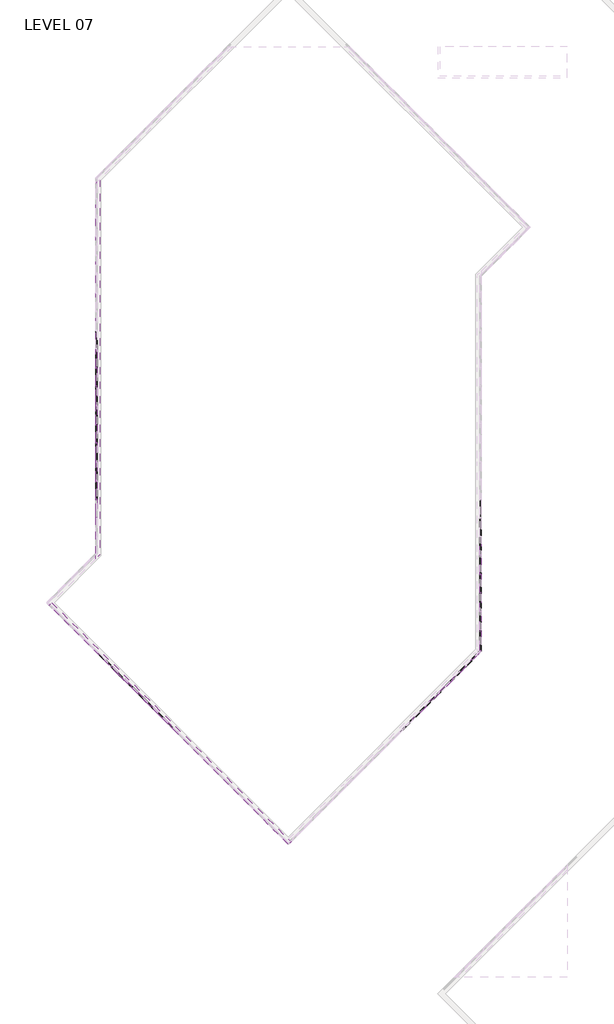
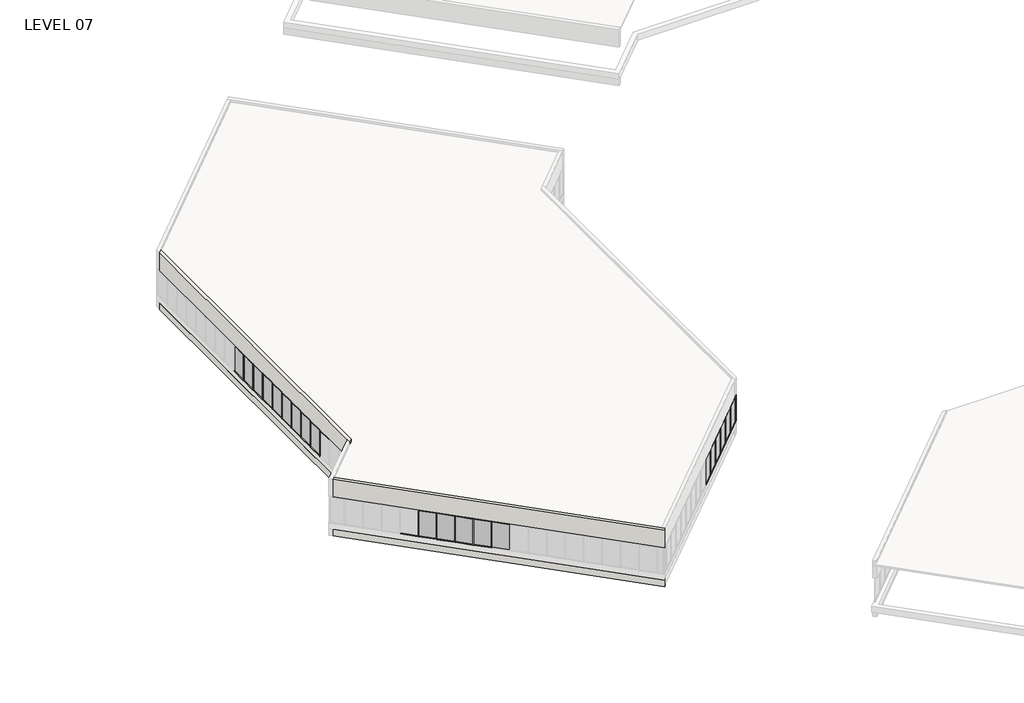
# One storey, part 4 of 18: 79 members, 28 plates, 4 walls.
"""IFC4 building model written with IfcOpenShell, lengths in millimetres."""

from ifc_helpers import new_model, si_unit, origin, place, context, project, spatial, faceted_brep, transform, mapped, element, save
from components import member_5247f267, member_e44af9ab, member_800970d4, member_c23f844a, member_1bd862b2, member_c975838b, member_ed9c17d6, plate_67294edd, plate_50b9cd61, plate_bbcbcabf, plate_db5d6751, plate_e0fd5134, plate_dca6a18a

model = new_model("IFC4")

# Units and contexts
model_context = context("Model", 3, world=origin())
ifc_project = project(units=[si_unit("LENGTHUNIT", "METRE", prefix="MILLI")], contexts=[model_context])

# Site, building, storey
site = spatial("IfcSite", under=ifc_project)
building = spatial("IfcBuilding", under=site)
storey = spatial("IfcBuildingStorey", under=building, Name="LEVEL 07", Elevation=23368.0)

# Members
placement = place(None, origin())
member_shape = member_5247f267(model_context)
element("IfcMember", 1, ObjectType="Rectangular Mullion : 2\" x 4.5\" rectangular", at=placement, inside=storey, context=model_context, shape_type="MappedRepresentation", body=[
    mapped(member_shape, transform((-32784.0347164, 50634.5675885, 25958.8), x_axis=(0.0, 0.0, 1.0), y_axis=(1.0, 0.0, 0.0), z_axis=(0.0, 1.0, 0.0))),
])
element("IfcMember", 2, ObjectType="Rectangular Mullion : 2\" x 4.5\" rectangular", at=placement, inside=storey, context=model_context, shape_type="MappedRepresentation", body=[
    mapped(member_shape, transform((-32784.0347164, 56730.5675885, 25958.8), x_axis=(0.0, 0.0, 1.0), y_axis=(1.0, 0.0, 0.0), z_axis=(0.0, 1.0, 0.0))),
])
element("IfcMember", 3, ObjectType="Rectangular Mullion : 2\" x 4.5\" rectangular", at=placement, inside=storey, context=model_context, shape_type="MappedRepresentation", body=[
    mapped(member_shape, transform((-32784.0347164, 58254.5675885, 25958.8), x_axis=(0.0, 0.0, 1.0), y_axis=(1.0, 0.0, 0.0), z_axis=(0.0, 1.0, 0.0))),
])
element("IfcMember", 4, ObjectType="Rectangular Mullion : 2\" x 4.5\" rectangular", at=placement, inside=storey, context=model_context, shape_type="MappedRepresentation", body=[
    mapped(member_shape, transform((-32784.0347164, 59778.5675885, 25958.8), x_axis=(0.0, 0.0, 1.0), y_axis=(1.0, 0.0, 0.0), z_axis=(0.0, 1.0, 0.0))),
])
element("IfcMember", 5, ObjectType="Rectangular Mullion : 2\" x 4.5\" rectangular", at=placement, inside=storey, context=model_context, shape_type="MappedRepresentation", body=[
    mapped(member_shape, transform((-32784.0347164, 62826.5675885, 25958.8), x_axis=(0.0, 0.0, 1.0), y_axis=(1.0, 0.0, 0.0), z_axis=(0.0, 1.0, 0.0))),
])
element("IfcMember", 6, ObjectType="Rectangular Mullion : 2\" x 4.5\" rectangular", at=placement, inside=storey, context=model_context, shape_type="MappedRepresentation", body=[
    mapped(member_shape, transform((-32784.0347164, 52158.5675885, 25958.8), x_axis=(0.0, 0.0, 1.0), y_axis=(1.0, 0.0, 0.0), z_axis=(0.0, 1.0, 0.0))),
])
element("IfcMember", 7, ObjectType="Rectangular Mullion : 2\" x 4.5\" rectangular", at=placement, inside=storey, context=model_context, shape_type="MappedRepresentation", body=[
    mapped(member_shape, transform((-32784.0347164, 55206.5675885, 25958.8), x_axis=(0.0, 0.0, 1.0), y_axis=(1.0, 0.0, 0.0), z_axis=(0.0, 1.0, 0.0))),
])
element("IfcMember", 8, ObjectType="Rectangular Mullion : 2\" x 4.5\" rectangular", at=placement, inside=storey, context=model_context, shape_type="MappedRepresentation", body=[
    mapped(member_shape, transform((-32784.0347164, 53682.5675885, 25958.8), x_axis=(0.0, 0.0, 1.0), y_axis=(1.0, 0.0, 0.0), z_axis=(0.0, 1.0, 0.0))),
])
element("IfcMember", 9, ObjectType="Rectangular Mullion : 2\" x 4.5\" rectangular", at=placement, inside=storey, context=model_context, shape_type="MappedRepresentation", body=[
    mapped(member_shape, transform((-32784.0347164, 61302.5675885, 25958.8), x_axis=(0.0, 0.0, 1.0), y_axis=(1.0, 0.0, 0.0), z_axis=(0.0, 1.0, 0.0))),
])
element("IfcMember", 10, ObjectType="Rectangular Mullion : 2\" x 4.5\" rectangular", at=placement, inside=storey, context=model_context, shape_type="MappedRepresentation", body=[
    mapped(member_shape, transform((-1611.8847164, 47586.5675885, 25958.8), x_axis=(0.0, 0.0, 1.0), y_axis=(1.0, 0.0, 0.0), z_axis=(0.0, 1.0, 0.0))),
])
element("IfcMember", 11, ObjectType="Rectangular Mullion : 2\" x 4.5\" rectangular", at=placement, inside=storey, context=model_context, shape_type="MappedRepresentation", body=[
    mapped(member_shape, transform((-1611.8847164, 46062.5675885, 25958.8), x_axis=(0.0, 0.0, 1.0), y_axis=(1.0, 0.0, 0.0), z_axis=(0.0, 1.0, 0.0))),
])
element("IfcMember", 12, ObjectType="Rectangular Mullion : 2\" x 4.5\" rectangular", at=placement, inside=storey, context=model_context, shape_type="MappedRepresentation", body=[
    mapped(member_shape, transform((-1611.8847164, 44538.5675885, 25958.8), x_axis=(0.0, 0.0, 1.0), y_axis=(1.0, 0.0, 0.0), z_axis=(0.0, 1.0, 0.0))),
])
element("IfcMember", 13, ObjectType="Rectangular Mullion : 2\" x 4.5\" rectangular", at=placement, inside=storey, context=model_context, shape_type="MappedRepresentation", body=[
    mapped(member_shape, transform((-1611.8847164, 43014.5675885, 25958.8), x_axis=(0.0, 0.0, 1.0), y_axis=(1.0, 0.0, 0.0), z_axis=(0.0, 1.0, 0.0))),
])
element("IfcMember", 14, ObjectType="Rectangular Mullion : 2\" x 4.5\" rectangular", at=placement, inside=storey, context=model_context, shape_type="MappedRepresentation", body=[
    mapped(member_shape, transform((-1611.8847164, 41490.5675885, 25958.8), x_axis=(0.0, 0.0, 1.0), y_axis=(1.0, 0.0, 0.0), z_axis=(0.0, 1.0, 0.0))),
])
element("IfcMember", 15, ObjectType="Rectangular Mullion : 2\" x 4.5\" rectangular", at=placement, inside=storey, context=model_context, shape_type="MappedRepresentation", body=[
    mapped(member_shape, transform((-3866.0742688, 36048.0719005, 25958.8), x_axis=(0.0, 0.0, 1.0), y_axis=(-0.7071067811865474, 0.7071067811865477, 0.0), z_axis=(-0.7071067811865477, -0.7071067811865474, 0.0))),
])
element("IfcMember", 16, ObjectType="Rectangular Mullion : 2\" x 4.5\" rectangular", at=placement, inside=storey, context=model_context, shape_type="MappedRepresentation", body=[
    mapped(member_shape, transform((-4943.7050033, 34970.441166, 25958.8), x_axis=(0.0, 0.0, 1.0), y_axis=(-0.707106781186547, 0.707106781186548, 0.0), z_axis=(-0.707106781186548, -0.707106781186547, 0.0))),
])
element("IfcMember", 17, ObjectType="Rectangular Mullion : 2\" x 4.5\" rectangular", at=placement, inside=storey, context=model_context, shape_type="MappedRepresentation", body=[
    mapped(member_shape, transform((-6021.3357378, 33892.8104315, 25958.8), x_axis=(0.0, 0.0, 1.0), y_axis=(-0.7071067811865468, 0.7071067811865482, 0.0), z_axis=(-0.7071067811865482, -0.7071067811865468, 0.0))),
])
element("IfcMember", 18, ObjectType="Rectangular Mullion : 2\" x 4.5\" rectangular", at=placement, inside=storey, context=model_context, shape_type="MappedRepresentation", body=[
    mapped(member_shape, transform((-7098.9590715, 32815.1870978, 25958.8), x_axis=(0.0, 0.0, 1.0), y_axis=(-0.7071067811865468, 0.7071067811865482, 0.0), z_axis=(-0.7071067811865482, -0.7071067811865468, 0.0))),
])
element("IfcMember", 19, ObjectType="Rectangular Mullion : 2\" x 4.5\" rectangular", at=placement, inside=storey, context=model_context, shape_type="MappedRepresentation", body=[
    mapped(member_shape, transform((-32784.0347164, 50685.3675885, 23368.0), x_axis=(0.0, 0.0, -1.0), y_axis=(1.0, 0.0, 0.0), z_axis=(0.0, -1.0, 0.0))),
])
element("IfcMember", 20, ObjectType="Rectangular Mullion : 2\" x 4.5\" rectangular", at=placement, inside=storey, context=model_context, shape_type="MappedRepresentation", body=[
    mapped(member_shape, transform((-32784.0347164, 56781.3675885, 23368.0), x_axis=(0.0, 0.0, -1.0), y_axis=(1.0, 0.0, 0.0), z_axis=(0.0, -1.0, 0.0))),
])
element("IfcMember", 21, ObjectType="Rectangular Mullion : 2\" x 4.5\" rectangular", at=placement, inside=storey, context=model_context, shape_type="MappedRepresentation", body=[
    mapped(member_shape, transform((-32784.0347164, 58305.3675885, 23368.0), x_axis=(0.0, 0.0, -1.0), y_axis=(1.0, 0.0, 0.0), z_axis=(0.0, -1.0, 0.0))),
])
element("IfcMember", 22, ObjectType="Rectangular Mullion : 2\" x 4.5\" rectangular", at=placement, inside=storey, context=model_context, shape_type="MappedRepresentation", body=[
    mapped(member_shape, transform((-32784.0347164, 59829.3675885, 23368.0), x_axis=(0.0, 0.0, -1.0), y_axis=(1.0, 0.0, 0.0), z_axis=(0.0, -1.0, 0.0))),
])
element("IfcMember", 23, ObjectType="Rectangular Mullion : 2\" x 4.5\" rectangular", at=placement, inside=storey, context=model_context, shape_type="MappedRepresentation", body=[
    mapped(member_shape, transform((-32784.0347164, 62877.3675885, 23368.0), x_axis=(0.0, 0.0, -1.0), y_axis=(1.0, 0.0, 0.0), z_axis=(0.0, -1.0, 0.0))),
])
element("IfcMember", 24, ObjectType="Rectangular Mullion : 2\" x 4.5\" rectangular", at=placement, inside=storey, context=model_context, shape_type="MappedRepresentation", body=[
    mapped(member_shape, transform((-32784.0347164, 52209.3675885, 23368.0), x_axis=(0.0, 0.0, -1.0), y_axis=(1.0, 0.0, 0.0), z_axis=(0.0, -1.0, 0.0))),
])
element("IfcMember", 25, ObjectType="Rectangular Mullion : 2\" x 4.5\" rectangular", at=placement, inside=storey, context=model_context, shape_type="MappedRepresentation", body=[
    mapped(member_shape, transform((-32784.0347164, 55257.3675885, 23368.0), x_axis=(0.0, 0.0, -1.0), y_axis=(1.0, 0.0, 0.0), z_axis=(0.0, -1.0, 0.0))),
])
element("IfcMember", 26, ObjectType="Rectangular Mullion : 2\" x 4.5\" rectangular", at=placement, inside=storey, context=model_context, shape_type="MappedRepresentation", body=[
    mapped(member_shape, transform((-32784.0347164, 53733.3675885, 23368.0), x_axis=(0.0, 0.0, -1.0), y_axis=(1.0, 0.0, 0.0), z_axis=(0.0, -1.0, 0.0))),
])
element("IfcMember", 27, ObjectType="Rectangular Mullion : 2\" x 4.5\" rectangular", at=placement, inside=storey, context=model_context, shape_type="MappedRepresentation", body=[
    mapped(member_shape, transform((-32784.0347164, 61353.3675885, 23368.0), x_axis=(0.0, 0.0, -1.0), y_axis=(1.0, 0.0, 0.0), z_axis=(0.0, -1.0, 0.0))),
])
element("IfcMember", 28, ObjectType="Rectangular Mullion : 2\" x 4.5\" rectangular", at=placement, inside=storey, context=model_context, shape_type="MappedRepresentation", body=[
    mapped(member_shape, transform((-1611.8847164, 47637.3675885, 23368.0), x_axis=(0.0, 0.0, -1.0), y_axis=(1.0, 0.0, 0.0), z_axis=(0.0, -1.0, 0.0))),
])
element("IfcMember", 29, ObjectType="Rectangular Mullion : 2\" x 4.5\" rectangular", at=placement, inside=storey, context=model_context, shape_type="MappedRepresentation", body=[
    mapped(member_shape, transform((-1611.8847164, 46113.3675885, 23368.0), x_axis=(0.0, 0.0, -1.0), y_axis=(1.0, 0.0, 0.0), z_axis=(0.0, -1.0, 0.0))),
])
element("IfcMember", 30, ObjectType="Rectangular Mullion : 2\" x 4.5\" rectangular", at=placement, inside=storey, context=model_context, shape_type="MappedRepresentation", body=[
    mapped(member_shape, transform((-1611.8847164, 44589.3675885, 23368.0), x_axis=(0.0, 0.0, -1.0), y_axis=(1.0, 0.0, 0.0), z_axis=(0.0, -1.0, 0.0))),
])
element("IfcMember", 31, ObjectType="Rectangular Mullion : 2\" x 4.5\" rectangular", at=placement, inside=storey, context=model_context, shape_type="MappedRepresentation", body=[
    mapped(member_shape, transform((-1611.8847164, 43065.3675885, 23368.0), x_axis=(0.0, 0.0, -1.0), y_axis=(1.0, 0.0, 0.0), z_axis=(0.0, -1.0, 0.0))),
])
element("IfcMember", 32, ObjectType="Rectangular Mullion : 2\" x 4.5\" rectangular", at=placement, inside=storey, context=model_context, shape_type="MappedRepresentation", body=[
    mapped(member_shape, transform((-1611.8847164, 41541.3675885, 23368.0), x_axis=(0.0, 0.0, -1.0), y_axis=(1.0, 0.0, 0.0), z_axis=(0.0, -1.0, 0.0))),
])
element("IfcMember", 33, ObjectType="Rectangular Mullion : 2\" x 4.5\" rectangular", at=placement, inside=storey, context=model_context, shape_type="MappedRepresentation", body=[
    mapped(member_shape, transform((-1611.8847164, 40017.3675885, 23368.0), x_axis=(0.0, 0.0, -1.0), y_axis=(1.0, 0.0, 0.0), z_axis=(0.0, -1.0, 0.0))),
])
element("IfcMember", 34, ObjectType="Rectangular Mullion : 2\" x 4.5\" rectangular", at=placement, inside=storey, context=model_context, shape_type="MappedRepresentation", body=[
    mapped(member_shape, transform((-3901.9952932, 36012.1508761, 23368.0), x_axis=(0.0, 0.0, -1.0), y_axis=(-0.7071067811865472, 0.7071067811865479, 0.0), z_axis=(0.7071067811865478, 0.7071067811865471, 0.0))),
])
element("IfcMember", 35, ObjectType="Rectangular Mullion : 2\" x 4.5\" rectangular", at=placement, inside=storey, context=model_context, shape_type="MappedRepresentation", body=[
    mapped(member_shape, transform((-4979.6260278, 34934.5201415, 23368.0), x_axis=(0.0, 0.0, -1.0), y_axis=(-0.7071067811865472, 0.7071067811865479, 0.0), z_axis=(0.7071067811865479, 0.7071067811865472, 0.0))),
])
element("IfcMember", 36, ObjectType="Rectangular Mullion : 2\" x 4.5\" rectangular", at=placement, inside=storey, context=model_context, shape_type="MappedRepresentation", body=[
    mapped(member_shape, transform((-6057.2567623, 33856.889407, 23368.0), x_axis=(0.0, 0.0, -1.0), y_axis=(-0.7071067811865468, 0.7071067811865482, 0.0), z_axis=(0.7071067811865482, 0.7071067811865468, 0.0))),
])
element("IfcMember", 37, ObjectType="Rectangular Mullion : 2\" x 4.5\" rectangular", at=placement, inside=storey, context=model_context, shape_type="MappedRepresentation", body=[
    mapped(member_shape, transform((-2824.3645587, 37089.7816106, 23368.0), x_axis=(0.0, 0.0, -1.0), y_axis=(-0.707106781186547, 0.7071067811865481, 0.0), z_axis=(0.707106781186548, 0.7071067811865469, 0.0))),
])
element("IfcMember", 38, ObjectType="Rectangular Mullion : 2\" x 4.5\" rectangular", at=placement, inside=storey, context=model_context, shape_type="MappedRepresentation", body=[
    mapped(member_shape, transform((-7134.880096, 32779.2660733, 23368.0), x_axis=(0.0, 0.0, -1.0), y_axis=(-0.7071067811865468, 0.7071067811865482, 0.0), z_axis=(0.7071067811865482, 0.7071067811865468, 0.0))),
])
element("IfcMember", 39, ObjectType="Rectangular Mullion : 2\" x 4.5\" rectangular", at=placement, inside=storey, context=model_context, shape_type="MappedRepresentation", body=[
    mapped(member_shape, transform((-31583.4219356, 37101.6486721, 23368.0), x_axis=(0.0, 0.0, -1.0), y_axis=(0.7071067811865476, 0.7071067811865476, 0.0), z_axis=(0.7071067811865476, -0.7071067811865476, 0.0))),
])
member_2_shape = member_e44af9ab(model_context)
element("IfcMember", 40, ObjectType="Rectangular Mullion : 2\" x 4.5\" rectangular", at=placement, inside=storey, context=model_context, shape_type="MappedRepresentation", body=[
    mapped(member_2_shape, transform((-32784.0347164, 50659.9675885, 23368.0), x_axis=(0.0, 1.0, 0.0), y_axis=(1.0, 0.0, 0.0), z_axis=(0.0, 0.0, -1.0))),
])
element("IfcMember", 41, ObjectType="Rectangular Mullion : 2\" x 4.5\" rectangular", at=placement, inside=storey, context=model_context, shape_type="MappedRepresentation", body=[
    mapped(member_2_shape, transform((-32784.0347164, 56755.9675885, 23368.0), x_axis=(0.0, 1.0, 0.0), y_axis=(1.0, 0.0, 0.0), z_axis=(0.0, 0.0, -1.0))),
])
element("IfcMember", 42, ObjectType="Rectangular Mullion : 2\" x 4.5\" rectangular", at=placement, inside=storey, context=model_context, shape_type="MappedRepresentation", body=[
    mapped(member_2_shape, transform((-32784.0347164, 58279.9675885, 23368.0), x_axis=(0.0, 1.0, 0.0), y_axis=(1.0, 0.0, 0.0), z_axis=(0.0, 0.0, -1.0))),
])
element("IfcMember", 43, ObjectType="Rectangular Mullion : 2\" x 4.5\" rectangular", at=placement, inside=storey, context=model_context, shape_type="MappedRepresentation", body=[
    mapped(member_2_shape, transform((-32784.0347164, 59803.9675885, 23368.0), x_axis=(0.0, 1.0, 0.0), y_axis=(1.0, 0.0, 0.0), z_axis=(0.0, 0.0, -1.0))),
])
element("IfcMember", 44, ObjectType="Rectangular Mullion : 2\" x 4.5\" rectangular", at=placement, inside=storey, context=model_context, shape_type="MappedRepresentation", body=[
    mapped(member_2_shape, transform((-32784.0347164, 62851.9675885, 23368.0), x_axis=(0.0, 1.0, 0.0), y_axis=(1.0, 0.0, 0.0), z_axis=(0.0, 0.0, -1.0))),
])
element("IfcMember", 45, ObjectType="Rectangular Mullion : 2\" x 4.5\" rectangular", at=placement, inside=storey, context=model_context, shape_type="MappedRepresentation", body=[
    mapped(member_2_shape, transform((-32784.0347164, 52183.9675885, 23368.0), x_axis=(0.0, 1.0, 0.0), y_axis=(1.0, 0.0, 0.0), z_axis=(0.0, 0.0, -1.0))),
])
element("IfcMember", 46, ObjectType="Rectangular Mullion : 2\" x 4.5\" rectangular", at=placement, inside=storey, context=model_context, shape_type="MappedRepresentation", body=[
    mapped(member_2_shape, transform((-32784.0347164, 55231.9675885, 23368.0), x_axis=(0.0, 1.0, 0.0), y_axis=(1.0, 0.0, 0.0), z_axis=(0.0, 0.0, -1.0))),
])
element("IfcMember", 47, ObjectType="Rectangular Mullion : 2\" x 4.5\" rectangular", at=placement, inside=storey, context=model_context, shape_type="MappedRepresentation", body=[
    mapped(member_2_shape, transform((-32784.0347164, 53707.9675885, 23368.0), x_axis=(0.0, 1.0, 0.0), y_axis=(1.0, 0.0, 0.0), z_axis=(0.0, 0.0, -1.0))),
])
element("IfcMember", 48, ObjectType="Rectangular Mullion : 2\" x 4.5\" rectangular", at=placement, inside=storey, context=model_context, shape_type="MappedRepresentation", body=[
    mapped(member_2_shape, transform((-32784.0347164, 61327.9675885, 23368.0), x_axis=(0.0, 1.0, 0.0), y_axis=(1.0, 0.0, 0.0), z_axis=(0.0, 0.0, -1.0))),
])
element("IfcMember", 49, ObjectType="Rectangular Mullion : 2\" x 4.5\" rectangular", at=placement, inside=storey, context=model_context, shape_type="MappedRepresentation", body=[
    mapped(member_2_shape, transform((-1611.8847164, 47611.9675885, 23368.0), x_axis=(0.0, 1.0, 0.0), y_axis=(1.0, 0.0, 0.0), z_axis=(0.0, 0.0, -1.0))),
])
element("IfcMember", 50, ObjectType="Rectangular Mullion : 2\" x 4.5\" rectangular", at=placement, inside=storey, context=model_context, shape_type="MappedRepresentation", body=[
    mapped(member_2_shape, transform((-1611.8847164, 46087.9675885, 23368.0), x_axis=(0.0, 1.0, 0.0), y_axis=(1.0, 0.0, 0.0), z_axis=(0.0, 0.0, -1.0))),
])
element("IfcMember", 51, ObjectType="Rectangular Mullion : 2\" x 4.5\" rectangular", at=placement, inside=storey, context=model_context, shape_type="MappedRepresentation", body=[
    mapped(member_2_shape, transform((-1611.8847164, 44563.9675885, 23368.0), x_axis=(0.0, 1.0, 0.0), y_axis=(1.0, 0.0, 0.0), z_axis=(0.0, 0.0, -1.0))),
])
element("IfcMember", 52, ObjectType="Rectangular Mullion : 2\" x 4.5\" rectangular", at=placement, inside=storey, context=model_context, shape_type="MappedRepresentation", body=[
    mapped(member_2_shape, transform((-1611.8847164, 43039.9675885, 23368.0), x_axis=(0.0, 1.0, 0.0), y_axis=(1.0, 0.0, 0.0), z_axis=(0.0, 0.0, -1.0))),
])
element("IfcMember", 53, ObjectType="Rectangular Mullion : 2\" x 4.5\" rectangular", at=placement, inside=storey, context=model_context, shape_type="MappedRepresentation", body=[
    mapped(member_2_shape, transform((-1611.8847164, 41515.9675885, 23368.0), x_axis=(0.0, 1.0, 0.0), y_axis=(1.0, 0.0, 0.0), z_axis=(0.0, 0.0, -1.0))),
])
element("IfcMember", 54, ObjectType="Rectangular Mullion : 2\" x 4.5\" rectangular", at=placement, inside=storey, context=model_context, shape_type="MappedRepresentation", body=[
    mapped(member_2_shape, transform((-1611.8847164, 39991.9675885, 23368.0), x_axis=(0.0, 1.0, 0.0), y_axis=(1.0, 0.0, 0.0), z_axis=(0.0, 0.0, -1.0))),
])
element("IfcMember", 55, ObjectType="Rectangular Mullion : 2\" x 4.5\" rectangular", at=placement, inside=storey, context=model_context, shape_type="MappedRepresentation", body=[
    mapped(member_2_shape, transform((-3884.034781, 36030.1113883, 23368.0), x_axis=(-0.7071067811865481, -0.7071067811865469, 0.0), y_axis=(-0.7071067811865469, 0.7071067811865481, 0.0), z_axis=(0.0, 0.0, -1.0))),
])
element("IfcMember", 56, ObjectType="Rectangular Mullion : 2\" x 4.5\" rectangular", at=placement, inside=storey, context=model_context, shape_type="MappedRepresentation", body=[
    mapped(member_2_shape, transform((-4961.6655155, 34952.4806538, 23368.0), x_axis=(-0.7071067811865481, -0.7071067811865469, 0.0), y_axis=(-0.7071067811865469, 0.7071067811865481, 0.0), z_axis=(0.0, 0.0, -1.0))),
])
element("IfcMember", 57, ObjectType="Rectangular Mullion : 2\" x 4.5\" rectangular", at=placement, inside=storey, context=model_context, shape_type="MappedRepresentation", body=[
    mapped(member_2_shape, transform((-6039.2962501, 33874.8499192, 23368.0), x_axis=(-0.7071067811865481, -0.7071067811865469, 0.0), y_axis=(-0.7071067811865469, 0.7071067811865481, 0.0), z_axis=(0.0, 0.0, -1.0))),
])
element("IfcMember", 58, ObjectType="Rectangular Mullion : 2\" x 4.5\" rectangular", at=placement, inside=storey, context=model_context, shape_type="MappedRepresentation", body=[
    mapped(member_2_shape, transform((-2806.4040465, 37107.7421228, 23368.0), x_axis=(-0.7071067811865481, -0.7071067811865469, 0.0), y_axis=(-0.7071067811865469, 0.7071067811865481, 0.0), z_axis=(0.0, 0.0, -1.0))),
])
element("IfcMember", 59, ObjectType="Rectangular Mullion : 2\" x 4.5\" rectangular", at=placement, inside=storey, context=model_context, shape_type="MappedRepresentation", body=[
    mapped(member_2_shape, transform((-7116.9195837, 32797.2265856, 23368.0), x_axis=(-0.7071067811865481, -0.7071067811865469, 0.0), y_axis=(-0.7071067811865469, 0.7071067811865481, 0.0), z_axis=(0.0, 0.0, -1.0))),
])
element("IfcMember", 60, ObjectType="Rectangular Mullion : 2\" x 4.5\" rectangular", at=placement, inside=storey, context=model_context, shape_type="MappedRepresentation", body=[
    mapped(member_2_shape, transform((-28350.531194, 33868.7579305, 23368.0), x_axis=(-0.7071067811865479, 0.7071067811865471, 0.0), y_axis=(0.7071067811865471, 0.7071067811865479, 0.0), z_axis=(0.0, 0.0, -1.0))),
])
element("IfcMember", 61, ObjectType="Rectangular Mullion : 2\" x 4.5\" rectangular", at=placement, inside=storey, context=model_context, shape_type="MappedRepresentation", body=[
    mapped(member_2_shape, transform((-29422.1746038, 34940.4013403, 23368.0), x_axis=(-0.7071067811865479, 0.7071067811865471, 0.0), y_axis=(0.7071067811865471, 0.7071067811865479, 0.0), z_axis=(0.0, 0.0, -1.0))),
])
element("IfcMember", 62, ObjectType="Rectangular Mullion : 2\" x 4.5\" rectangular", at=placement, inside=storey, context=model_context, shape_type="MappedRepresentation", body=[
    mapped(member_2_shape, transform((-30493.8180136, 36012.0447501, 23368.0), x_axis=(-0.7071067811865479, 0.7071067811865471, 0.0), y_axis=(0.7071067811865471, 0.7071067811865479, 0.0), z_axis=(0.0, 0.0, -1.0))),
])
element("IfcMember", 63, ObjectType="Rectangular Mullion : 2\" x 4.5\" rectangular", at=placement, inside=storey, context=model_context, shape_type="MappedRepresentation", body=[
    mapped(member_2_shape, transform((-31565.4614234, 37083.6881599, 23368.0), x_axis=(-0.7071067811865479, 0.7071067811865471, 0.0), y_axis=(0.7071067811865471, 0.7071067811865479, 0.0), z_axis=(0.0, 0.0, -1.0))),
])
element("IfcMember", 64, ObjectType="Rectangular Mullion : 2\" x 4.5\" rectangular", at=placement, inside=storey, context=model_context, shape_type="MappedRepresentation", body=[
    mapped(member_2_shape, transform((-27275.9119891, 32794.1387256, 23368.0), x_axis=(-0.7071067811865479, 0.7071067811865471, 0.0), y_axis=(0.7071067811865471, 0.7071067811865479, 0.0), z_axis=(0.0, 0.0, -1.0))),
])
member_3_shape = member_800970d4(model_context)
element("IfcMember", 65, ObjectType="Rectangular Mullion : 2\" x 4.5\" rectangular", at=placement, inside=storey, context=model_context, shape_type="MappedRepresentation", body=[
    mapped(member_3_shape, transform((-1611.8847164, 38302.2614529, 25958.8), x_axis=(0.0, -1.0, 0.0), y_axis=(1.0, 0.0, 0.0), z_axis=(0.0, 0.0, 1.0))),
])
element("IfcMember", 66, ObjectType="Rectangular Mullion : 2\" x 4.5\" rectangular", at=placement, inside=storey, context=model_context, shape_type="MappedRepresentation", body=[
    mapped(member_3_shape, transform((-1611.8847164, 38302.2614529, 25958.8), x_axis=(0.7071067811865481, 0.7071067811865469, 0.0), y_axis=(-0.7071067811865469, 0.7071067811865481, 0.0), z_axis=(0.0, 0.0, 1.0))),
])
member_4_shape = member_c23f844a(model_context)
element("IfcMember", 67, ObjectType="Rectangular Mullion : 2\" x 4.5\" rectangular", at=placement, inside=storey, context=model_context, shape_type="MappedRepresentation", body=[
    mapped(member_4_shape, transform((-29404.2140916, 34922.4408281, 25958.8), x_axis=(0.0, 0.0, 1.0), y_axis=(0.7071067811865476, 0.7071067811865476, 0.0), z_axis=(-0.7071067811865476, 0.7071067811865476, 0.0))),
])
element("IfcMember", 68, ObjectType="Rectangular Mullion : 2\" x 4.5\" rectangular", at=placement, inside=storey, context=model_context, shape_type="MappedRepresentation", body=[
    mapped(member_4_shape, transform((-30475.8575014, 35994.0842378, 25958.8), x_axis=(0.0, 0.0, 1.0), y_axis=(0.7071067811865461, 0.707106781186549, 0.0), z_axis=(-0.707106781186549, 0.7071067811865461, 0.0))),
])
element("IfcMember", 69, ObjectType="Rectangular Mullion : 2\" x 4.5\" rectangular", at=placement, inside=storey, context=model_context, shape_type="MappedRepresentation", body=[
    mapped(member_4_shape, transform((-31547.5009111, 37065.7276476, 25958.8), x_axis=(0.0, 0.0, 1.0), y_axis=(0.7071067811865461, 0.707106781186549, 0.0), z_axis=(-0.7071067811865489, 0.707106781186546, 0.0))),
])
element("IfcMember", 70, ObjectType="Rectangular Mullion : 2\" x 4.5\" rectangular", at=placement, inside=storey, context=model_context, shape_type="MappedRepresentation", body=[
    mapped(member_4_shape, transform((-28368.4917063, 33886.7184427, 23368.0), x_axis=(0.0, 0.0, -1.0), y_axis=(0.7071067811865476, 0.7071067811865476, 0.0), z_axis=(0.7071067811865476, -0.7071067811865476, 0.0))),
])
element("IfcMember", 71, ObjectType="Rectangular Mullion : 2\" x 4.5\" rectangular", at=placement, inside=storey, context=model_context, shape_type="MappedRepresentation", body=[
    mapped(member_4_shape, transform((-29440.135116, 34958.3618525, 23368.0), x_axis=(0.0, 0.0, -1.0), y_axis=(0.7071067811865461, 0.707106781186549, 0.0), z_axis=(0.707106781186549, -0.7071067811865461, 0.0))),
])
element("IfcMember", 72, ObjectType="Rectangular Mullion : 2\" x 4.5\" rectangular", at=placement, inside=storey, context=model_context, shape_type="MappedRepresentation", body=[
    mapped(member_4_shape, transform((-30511.7785258, 36030.0052623, 23368.0), x_axis=(0.0, 0.0, -1.0), y_axis=(0.7071067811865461, 0.707106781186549, 0.0), z_axis=(0.7071067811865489, -0.707106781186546, 0.0))),
])
member_5_shape = member_1bd862b2(model_context)
element("IfcMember", 73, ObjectType="Rectangular Mullion : 2\" x 4.5\" rectangular", at=placement, inside=storey, context=model_context, shape_type="MappedRepresentation", body=[
    mapped(member_5_shape, transform((-1611.8847164, 38353.0614529, 23368.0), x_axis=(0.0, 0.0, -1.0), y_axis=(1.0, 0.0, 0.0), z_axis=(0.0, -1.0, 0.0))),
])
element("IfcMember", 74, ObjectType="Rectangular Mullion : 2\" x 4.5\" rectangular", at=placement, inside=storey, context=model_context, shape_type="MappedRepresentation", body=[
    mapped(member_5_shape, transform((-1611.8847164, 39966.5675885, 25958.8), x_axis=(0.0, 0.0, 1.0), y_axis=(1.0, 0.0, 0.0), z_axis=(0.0, 1.0, 0.0))),
])
member_6_shape = member_c975838b(model_context)
element("IfcMember", 75, ObjectType="Rectangular Mullion : 2\" x 4.5\" rectangular", at=placement, inside=storey, context=model_context, shape_type="MappedRepresentation", body=[
    mapped(member_6_shape, transform((-1647.8057409, 38266.3404284, 23368.0), x_axis=(0.0, 0.0, -1.0), y_axis=(-0.7071067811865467, 0.7071067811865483, 0.0), z_axis=(0.7071067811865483, 0.7071067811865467, 0.0))),
])
element("IfcMember", 76, ObjectType="Rectangular Mullion : 2\" x 4.5\" rectangular", at=placement, inside=storey, context=model_context, shape_type="MappedRepresentation", body=[
    mapped(member_6_shape, transform((-2788.4435342, 37125.7026351, 25958.8), x_axis=(0.0, 0.0, 1.0), y_axis=(-0.7071067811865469, 0.7071067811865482, 0.0), z_axis=(-0.7071067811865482, -0.7071067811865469, 0.0))),
])
member_7_shape = member_ed9c17d6(model_context)
element("IfcMember", 77, ObjectType="Rectangular Mullion : 2\" x 4.5\" rectangular", at=placement, inside=storey, context=model_context, shape_type="MappedRepresentation", body=[
    mapped(member_7_shape, transform((-28332.5706818, 33850.7974183, 25958.8), x_axis=(0.0, 0.0, 1.0), y_axis=(0.7071067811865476, 0.7071067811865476, 0.0), z_axis=(-0.7071067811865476, 0.7071067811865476, 0.0))),
])
element("IfcMember", 78, ObjectType="Rectangular Mullion : 2\" x 4.5\" rectangular", at=placement, inside=storey, context=model_context, shape_type="MappedRepresentation", body=[
    mapped(member_7_shape, transform((-27257.9514769, 32776.1782134, 25958.8), x_axis=(0.0, 0.0, 1.0), y_axis=(0.7071067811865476, 0.7071067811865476, 0.0), z_axis=(-0.7071067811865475, 0.7071067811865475, 0.0))),
])
element("IfcMember", 79, ObjectType="Rectangular Mullion : 2\" x 4.5\" rectangular", at=placement, inside=storey, context=model_context, shape_type="MappedRepresentation", body=[
    mapped(member_7_shape, transform((-27293.8725014, 32812.0992378, 23368.0), x_axis=(0.0, 0.0, -1.0), y_axis=(0.7071067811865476, 0.7071067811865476, 0.0), z_axis=(0.7071067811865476, -0.7071067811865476, 0.0))),
])

# Plates
plate_shape = plate_67294edd(model_context)
element("IfcPlate", 80, ObjectType="System Panel : 1/4\" Glass", at=placement, inside=storey, context=model_context, shape_type="MappedRepresentation", body=[
    mapped(plate_shape, transform((-32784.0347164, 51421.9675885, 23418.8), x_axis=(0.0, 1.0, 0.0), y_axis=(-1.0, 0.0, 0.0), z_axis=(0.0, 0.0, 1.0))),
])
element("IfcPlate", 81, ObjectType="System Panel : 1/4\" Glass", at=placement, inside=storey, context=model_context, shape_type="MappedRepresentation", body=[
    mapped(plate_shape, transform((-32784.0347164, 57517.9675885, 23418.8), x_axis=(0.0, 1.0, 0.0), y_axis=(-1.0, 0.0, 0.0), z_axis=(0.0, 0.0, 1.0))),
])
element("IfcPlate", 82, ObjectType="System Panel : 1/4\" Glass", at=placement, inside=storey, context=model_context, shape_type="MappedRepresentation", body=[
    mapped(plate_shape, transform((-32784.0347164, 59041.9675885, 23418.8), x_axis=(0.0, 1.0, 0.0), y_axis=(-1.0, 0.0, 0.0), z_axis=(0.0, 0.0, 1.0))),
])
element("IfcPlate", 83, ObjectType="System Panel : 1/4\" Glass", at=placement, inside=storey, context=model_context, shape_type="MappedRepresentation", body=[
    mapped(plate_shape, transform((-32784.0347164, 60565.9675885, 23418.8), x_axis=(0.0, 1.0, 0.0), y_axis=(-1.0, 0.0, 0.0), z_axis=(0.0, 0.0, 1.0))),
])
element("IfcPlate", 84, ObjectType="System Panel : 1/4\" Glass", at=placement, inside=storey, context=model_context, shape_type="MappedRepresentation", body=[
    mapped(plate_shape, transform((-32784.0347164, 63613.9675885, 23418.8), x_axis=(0.0, 1.0, 0.0), y_axis=(-1.0, 0.0, 0.0), z_axis=(0.0, 0.0, 1.0))),
])
element("IfcPlate", 85, ObjectType="System Panel : 1/4\" Glass", at=placement, inside=storey, context=model_context, shape_type="MappedRepresentation", body=[
    mapped(plate_shape, transform((-32784.0347164, 52945.9675885, 23418.8), x_axis=(0.0, 1.0, 0.0), y_axis=(-1.0, 0.0, 0.0), z_axis=(0.0, 0.0, 1.0))),
])
element("IfcPlate", 86, ObjectType="System Panel : 1/4\" Glass", at=placement, inside=storey, context=model_context, shape_type="MappedRepresentation", body=[
    mapped(plate_shape, transform((-32784.0347164, 55993.9675885, 23418.8), x_axis=(0.0, 1.0, 0.0), y_axis=(-1.0, 0.0, 0.0), z_axis=(0.0, 0.0, 1.0))),
])
element("IfcPlate", 87, ObjectType="System Panel : 1/4\" Glass", at=placement, inside=storey, context=model_context, shape_type="MappedRepresentation", body=[
    mapped(plate_shape, transform((-32784.0347164, 54469.9675885, 23418.8), x_axis=(0.0, 1.0, 0.0), y_axis=(-1.0, 0.0, 0.0), z_axis=(0.0, 0.0, 1.0))),
])
element("IfcPlate", 88, ObjectType="System Panel : 1/4\" Glass", at=placement, inside=storey, context=model_context, shape_type="MappedRepresentation", body=[
    mapped(plate_shape, transform((-32784.0347164, 62089.9675885, 23418.8), x_axis=(0.0, 1.0, 0.0), y_axis=(-1.0, 0.0, 0.0), z_axis=(0.0, 0.0, 1.0))),
])
element("IfcPlate", 89, ObjectType="System Panel : 1/4\" Glass", at=placement, inside=storey, context=model_context, shape_type="MappedRepresentation", body=[
    mapped(plate_shape, transform((-1611.8847164, 49897.9675885, 23418.8), x_axis=(0.0, 1.0, 0.0), y_axis=(-1.0, 0.0, 0.0), z_axis=(0.0, 0.0, 1.0))),
])
element("IfcPlate", 90, ObjectType="System Panel : 1/4\" Glass", at=placement, inside=storey, context=model_context, shape_type="MappedRepresentation", body=[
    mapped(plate_shape, transform((-1611.8847164, 48373.9675885, 23418.8), x_axis=(0.0, 1.0, 0.0), y_axis=(-1.0, 0.0, 0.0), z_axis=(0.0, 0.0, 1.0))),
])
element("IfcPlate", 91, ObjectType="System Panel : 1/4\" Glass", at=placement, inside=storey, context=model_context, shape_type="MappedRepresentation", body=[
    mapped(plate_shape, transform((-1611.8847164, 46849.9675885, 23418.8), x_axis=(0.0, 1.0, 0.0), y_axis=(-1.0, 0.0, 0.0), z_axis=(0.0, 0.0, 1.0))),
])
element("IfcPlate", 92, ObjectType="System Panel : 1/4\" Glass", at=placement, inside=storey, context=model_context, shape_type="MappedRepresentation", body=[
    mapped(plate_shape, transform((-1611.8847164, 45325.9675885, 23418.8), x_axis=(0.0, 1.0, 0.0), y_axis=(-1.0, 0.0, 0.0), z_axis=(0.0, 0.0, 1.0))),
])
element("IfcPlate", 93, ObjectType="System Panel : 1/4\" Glass", at=placement, inside=storey, context=model_context, shape_type="MappedRepresentation", body=[
    mapped(plate_shape, transform((-1611.8847164, 43801.9675885, 23418.8), x_axis=(0.0, 1.0, 0.0), y_axis=(-1.0, 0.0, 0.0), z_axis=(0.0, 0.0, 1.0))),
])
element("IfcPlate", 94, ObjectType="System Panel : 1/4\" Glass", at=placement, inside=storey, context=model_context, shape_type="MappedRepresentation", body=[
    mapped(plate_shape, transform((-1611.8847164, 42277.9675885, 23418.8), x_axis=(0.0, 1.0, 0.0), y_axis=(-1.0, 0.0, 0.0), z_axis=(0.0, 0.0, 1.0))),
])
element("IfcPlate", 95, ObjectType="System Panel : 1/4\" Glass", at=placement, inside=storey, context=model_context, shape_type="MappedRepresentation", body=[
    mapped(plate_shape, transform((-1611.8847164, 40753.9675885, 23418.8), x_axis=(0.0, 1.0, 0.0), y_axis=(-1.0, 0.0, 0.0), z_axis=(0.0, 0.0, 1.0))),
])
element("IfcPlate", 96, ObjectType="System Panel : 1/4\" Glass", at=placement, inside=storey, context=model_context, shape_type="MappedRepresentation", body=[
    mapped(plate_shape, transform((-4422.8501483, 35491.296021, 23418.8), x_axis=(-0.7071067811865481, -0.7071067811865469, 0.0), y_axis=(0.7071067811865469, -0.7071067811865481, 0.0), z_axis=(0.0, 0.0, 1.0))),
])
element("IfcPlate", 97, ObjectType="System Panel : 1/4\" Glass", at=placement, inside=storey, context=model_context, shape_type="MappedRepresentation", body=[
    mapped(plate_shape, transform((-5500.4808828, 34413.6652865, 23418.8), x_axis=(-0.7071067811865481, -0.7071067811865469, 0.0), y_axis=(0.7071067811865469, -0.7071067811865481, 0.0), z_axis=(0.0, 0.0, 1.0))),
])
element("IfcPlate", 98, ObjectType="System Panel : 1/4\" Glass", at=placement, inside=storey, context=model_context, shape_type="MappedRepresentation", body=[
    mapped(plate_shape, transform((-3345.2194137, 36568.9267556, 23418.8), x_axis=(-0.7071067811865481, -0.7071067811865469, 0.0), y_axis=(0.7071067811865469, -0.7071067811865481, 0.0), z_axis=(0.0, 0.0, 1.0))),
])
plate_2_shape = plate_50b9cd61(model_context)
element("IfcPlate", 99, ObjectType="System Panel : 1/4\" Glass", at=placement, inside=storey, context=model_context, shape_type="MappedRepresentation", body=[
    mapped(plate_2_shape, transform((-28886.3528989, 34404.5796354, 23418.8), x_axis=(-0.7071067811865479, 0.7071067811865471, 0.0), y_axis=(-0.7071067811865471, -0.7071067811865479, 0.0), z_axis=(0.0, 0.0, 1.0))),
])
element("IfcPlate", 100, ObjectType="System Panel : 1/4\" Glass", at=placement, inside=storey, context=model_context, shape_type="MappedRepresentation", body=[
    mapped(plate_2_shape, transform((-29957.9963087, 35476.2230452, 23418.8), x_axis=(-0.7071067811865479, 0.7071067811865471, 0.0), y_axis=(-0.7071067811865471, -0.7071067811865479, 0.0), z_axis=(0.0, 0.0, 1.0))),
])
element("IfcPlate", 101, ObjectType="System Panel : 1/4\" Glass", at=placement, inside=storey, context=model_context, shape_type="MappedRepresentation", body=[
    mapped(plate_2_shape, transform((-31029.6397185, 36547.866455, 23418.8), x_axis=(-0.7071067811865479, 0.7071067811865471, 0.0), y_axis=(-0.7071067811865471, -0.7071067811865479, 0.0), z_axis=(0.0, 0.0, 1.0))),
])
plate_3_shape = plate_bbcbcabf(model_context)
element("IfcPlate", 102, ObjectType="System Panel : 1/4\" Glass", at=placement, inside=storey, context=model_context, shape_type="MappedRepresentation", body=[
    mapped(plate_3_shape, transform((-1611.8847164, 39159.8145207, 23418.8), x_axis=(0.0, 1.0, 0.0), y_axis=(-1.0, 0.0, 0.0), z_axis=(0.0, 0.0, 1.0))),
])
plate_4_shape = plate_db5d6751(model_context)
element("IfcPlate", 103, ObjectType="System Panel : 1/4\" Glass", at=placement, inside=storey, context=model_context, shape_type="MappedRepresentation", body=[
    mapped(plate_4_shape, transform((-2218.1246376, 37696.0215317, 23418.8), x_axis=(-0.7071067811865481, -0.7071067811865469, 0.0), y_axis=(0.7071067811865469, -0.7071067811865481, 0.0), z_axis=(0.0, 0.0, 1.0))),
])
plate_5_shape = plate_e0fd5134(model_context)
element("IfcPlate", 104, ObjectType="System Panel : 1/4\" Glass", at=placement, inside=storey, context=model_context, shape_type="MappedRepresentation", body=[
    mapped(plate_5_shape, transform((-6578.1079169, 33336.0382524, 23418.8), x_axis=(-0.7071067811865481, -0.7071067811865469, 0.0), y_axis=(0.7071067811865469, -0.7071067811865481, 0.0), z_axis=(0.0, 0.0, 1.0))),
])
element("IfcPlate", 105, ObjectType="System Panel : 1/4\" Glass", at=placement, inside=storey, context=model_context, shape_type="MappedRepresentation", body=[
    mapped(plate_5_shape, transform((-7655.7312505, 32258.4149187, 23418.8), x_axis=(-0.7071067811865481, -0.7071067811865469, 0.0), y_axis=(0.7071067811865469, -0.7071067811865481, 0.0), z_axis=(0.0, 0.0, 1.0))),
])
plate_6_shape = plate_dca6a18a(model_context)
element("IfcPlate", 106, ObjectType="System Panel : 1/4\" Glass", at=placement, inside=storey, context=model_context, shape_type="MappedRepresentation", body=[
    mapped(plate_6_shape, transform((-26738.6023867, 32256.8291232, 23418.8), x_axis=(-0.7071067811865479, 0.7071067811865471, 0.0), y_axis=(-0.7071067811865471, -0.7071067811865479, 0.0), z_axis=(0.0, 0.0, 1.0))),
])
element("IfcPlate", 107, ObjectType="System Panel : 1/4\" Glass", at=placement, inside=storey, context=model_context, shape_type="MappedRepresentation", body=[
    mapped(plate_6_shape, transform((-27813.2215916, 33331.4483281, 23418.8), x_axis=(-0.7071067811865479, 0.7071067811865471, 0.0), y_axis=(-0.7071067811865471, -0.7071067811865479, 0.0), z_axis=(0.0, 0.0, 1.0))),
])

# Walls
element("IfcWall", 108, ObjectType="01-CONCRETE-12", at=placement, inside=storey, context=model_context, shape_type="Brep", body=[
    faceted_brep([(-32841.1847164, 76326.2937354, 22186.9), (-32841.1847164, 46277.3460292, 22186.9), (-32841.1847164, 45846.2937354, 22186.9), (-32841.1847164, 45846.2937354, 22809.2), (-32841.1847164, 46277.3460292, 22809.2), (-32841.1847164, 76326.2937354, 22809.2), (-32536.3847164, 76631.0937354, 22186.9), (-32536.3847164, 76631.0937354, 22809.2), (-32536.3847164, 46151.0937354, 22809.2), (-32536.3847164, 46151.0937354, 22186.9)], [[[0, 1, 2, 3, 4, 5]], [[6, 7, 8, 9]], [[2, 1, 0, 6, 9]], [[5, 4, 3, 8, 7]], [[0, 5, 7, 6]], [[3, 2, 9, 8]]]),
])
element("IfcWall", 109, ObjectType="01-CONCRETE-12", at=placement, inside=storey, context=model_context, shape_type="Brep", body=[
    faceted_brep([(-36625.0370102, 42062.4414416, 22186.9), (-17197.9597164, 22635.3641478, 22186.9), (-17197.9597164, 22635.3641478, 22809.2), (-36625.0370102, 42062.4414416, 22809.2), (-36409.5108633, 42277.9675885, 22186.9), (-36409.5108633, 42277.9675885, 22809.2), (-17197.9597164, 23066.4164416, 22809.2), (-16982.4335695, 22850.8902947, 22809.2), (-16982.4335695, 22850.8902947, 22186.9), (-17197.9597164, 23066.4164416, 22186.9)], [[[0, 1, 2, 3]], [[4, 5, 6, 7, 8, 9]], [[1, 0, 4, 9, 8]], [[3, 2, 7, 6, 5]], [[0, 3, 5, 4]], [[2, 1, 8, 7]]]),
])
element("IfcWall", 110, ObjectType="01-CONCRETE-12", at=placement, inside=storey, context=model_context, shape_type="Brep", body=[
    faceted_brep([(-32841.1847164, 76326.2937354, 25958.8), (-32841.1847164, 46277.3460292, 25958.8), (-32841.1847164, 45846.2937354, 25958.8), (-32841.1847164, 45846.2937354, 27673.3), (-32841.1847164, 46277.3460292, 27673.3), (-32841.1847164, 76326.2937354, 27673.3), (-32536.3847164, 76631.0937354, 25958.8), (-32536.3847164, 76631.0937354, 27673.3), (-32536.3847164, 46151.0937354, 27673.3), (-32536.3847164, 46151.0937354, 25958.8)], [[[0, 1, 2, 3, 4, 5]], [[6, 7, 8, 9]], [[2, 1, 0, 6, 9]], [[5, 4, 3, 8, 7]], [[0, 5, 7, 6]], [[3, 2, 9, 8]]]),
])
element("IfcWall", 111, ObjectType="01-CONCRETE-12", at=placement, inside=storey, context=model_context, shape_type="Brep", body=[
    faceted_brep([(-36625.0370102, 42062.4414416, 25958.8), (-17197.9597164, 22635.3641478, 25958.8), (-17197.9597164, 22635.3641478, 27673.3), (-36625.0370102, 42062.4414416, 27673.3), (-36409.5108633, 42277.9675885, 25958.8), (-36409.5108633, 42277.9675885, 27673.3), (-17197.9597164, 23066.4164416, 27673.3), (-16982.4335695, 22850.8902947, 27673.3), (-16982.4335695, 22850.8902947, 25958.8), (-17197.9597164, 23066.4164416, 25958.8)], [[[0, 1, 2, 3]], [[4, 5, 6, 7, 8, 9]], [[1, 0, 4, 9, 8]], [[3, 2, 7, 6, 5]], [[0, 3, 5, 4]], [[2, 1, 8, 7]]]),
])

save(model, "model.ifc")
